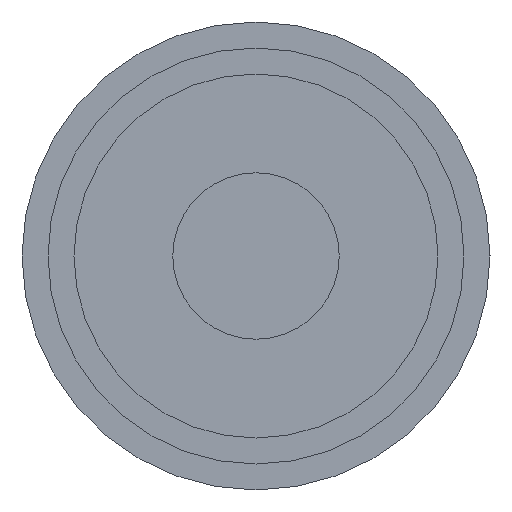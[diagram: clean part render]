
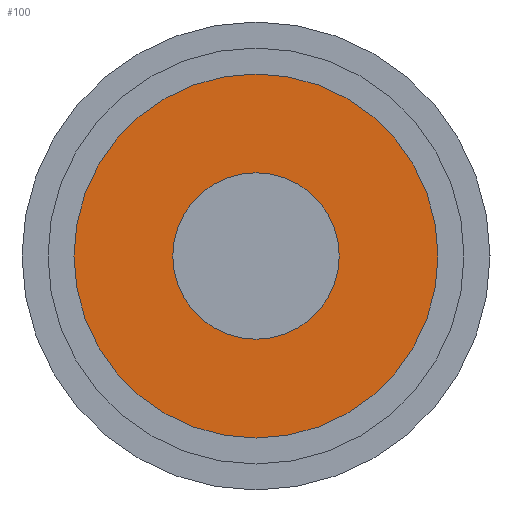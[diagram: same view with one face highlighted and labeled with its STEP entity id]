
A CAD part, left-side view. The second image highlights one B-rep face of the part: STEP entity #100.
In plain terms, the highlighted planar face has unit normal (-1, 0, 0).
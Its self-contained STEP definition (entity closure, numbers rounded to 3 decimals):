
#100 = ADVANCED_FACE( '', ( #161, #162 ), #163, .T. );
#161 = FACE_BOUND( '', #225, .T. );
#162 = FACE_OUTER_BOUND( '', #226, .T. );
#163 = PLANE( '', #227 );
#225 = EDGE_LOOP( '', ( #405, #406 ) );
#226 = EDGE_LOOP( '', ( #407, #408 ) );
#227 = AXIS2_PLACEMENT_3D( '', #409, #410, #411 );
#405 = ORIENTED_EDGE( '', *, *, #476, .F. );
#406 = ORIENTED_EDGE( '', *, *, #427, .F. );
#407 = ORIENTED_EDGE( '', *, *, #431, .T. );
#408 = ORIENTED_EDGE( '', *, *, #475, .T. );
#409 = CARTESIAN_POINT( '', ( 0., 2.55, 0. ) );
#410 = DIRECTION( '', ( -1., 0., 0. ) );
#411 = DIRECTION( '', ( 0., 1., 0. ) );
#427 = EDGE_CURVE( '', #483, #479, #485, .T. );
#431 = EDGE_CURVE( '', #487, #491, #493, .T. );
#475 = EDGE_CURVE( '', #491, #487, #565, .T. );
#476 = EDGE_CURVE( '', #479, #483, #566, .T. );
#479 = VERTEX_POINT( '', #569 );
#483 = VERTEX_POINT( '', #574 );
#485 = CIRCLE( '', #577, 1.6 );
#487 = VERTEX_POINT( '', #579 );
#491 = VERTEX_POINT( '', #584 );
#493 = CIRCLE( '', #587, 3.5 );
#565 = CIRCLE( '', #673, 3.5 );
#566 = CIRCLE( '', #674, 1.6 );
#569 = CARTESIAN_POINT( '', ( 0., 1.6, 0. ) );
#574 = CARTESIAN_POINT( '', ( 0., -1.6, 0. ) );
#577 = AXIS2_PLACEMENT_3D( '', #681, #682, #683 );
#579 = CARTESIAN_POINT( '', ( 0., 3.5, 0. ) );
#584 = CARTESIAN_POINT( '', ( 0., -3.5, 0. ) );
#587 = AXIS2_PLACEMENT_3D( '', #689, #690, #691 );
#673 = AXIS2_PLACEMENT_3D( '', #793, #794, #795 );
#674 = AXIS2_PLACEMENT_3D( '', #796, #797, #798 );
#681 = CARTESIAN_POINT( '', ( 0., 0., 0. ) );
#682 = DIRECTION( '', ( -1., 0., 0. ) );
#683 = DIRECTION( '', ( 0., 1., 0. ) );
#689 = CARTESIAN_POINT( '', ( 0., 0., 0. ) );
#690 = DIRECTION( '', ( -1., 0., 0. ) );
#691 = DIRECTION( '', ( 0., 1., 0. ) );
#793 = CARTESIAN_POINT( '', ( 0., 0., 0. ) );
#794 = DIRECTION( '', ( -1., 0., 0. ) );
#795 = DIRECTION( '', ( 0., 1., 0. ) );
#796 = CARTESIAN_POINT( '', ( 0., 0., 0. ) );
#797 = DIRECTION( '', ( -1., 0., 0. ) );
#798 = DIRECTION( '', ( 0., 1., 0. ) );
